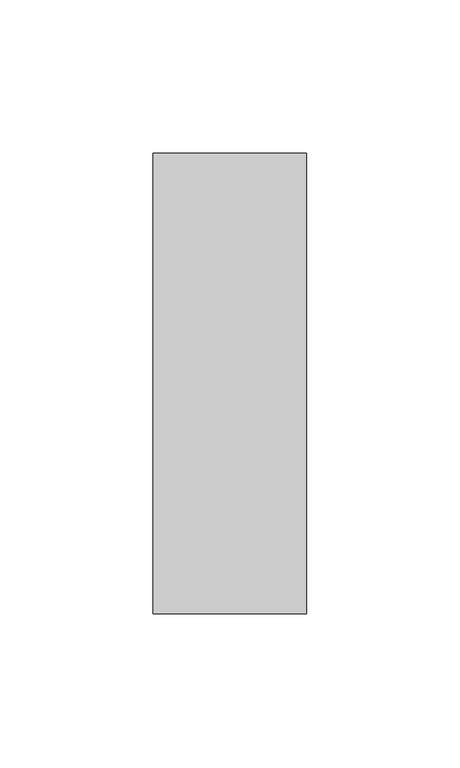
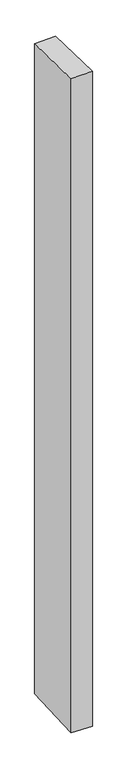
"""IFC4 building model written with IfcOpenShell, lengths in millimetres: member geometry, Прямоугольный импост : 50 x 150 мм."""

from ifc_helpers import new_model, si_unit, origin, place, context, project, spatial, faceted_brep, source, transform, mapped, element, save


def member_f3e51769(model_context):
    return source(origin(), model_context, "Body", "Brep", [
        faceted_brep([(-25.0, 75.0, -2.5786425), (25.0, 75.0, -1.3619852), (25.0, 75.0, -1632.673093), (-25.0, 75.0, -1631.4405841), (-25.0, -75.0, 1.3619852), (-25.0, -75.0, -1638.2483927), (25.0, -75.0, 2.5786425), (25.0, -75.0, -1639.4809017)], [[[0, 1, 2, 3]], [[4, 0, 3, 5]], [[6, 4, 5, 7]], [[1, 6, 7, 2]], [[1, 0, 4, 6]], [[2, 7, 5, 3]]]),
    ])


if __name__ == "__main__":
    model = new_model("IFC4")
    model_context = context("Model", 3, world=origin())
    ifc_project = project(units=[si_unit("LENGTHUNIT", "METRE", prefix="MILLI")], contexts=[model_context])
    site = spatial("IfcSite", under=ifc_project)
    building = spatial("IfcBuilding", under=site)
    placement = place(None, origin())
    member_shape = member_f3e51769(model_context)
    element("IfcMember", 1, ObjectType="Прямоугольный импост : 50 x 150 мм", at=placement, inside=building, context=model_context, shape_type="MappedRepresentation", body=[
        mapped(member_shape, transform((0.0, 0.0, 0.0), x_axis=(1.0, 0.0, 0.0), y_axis=(0.0, 1.0, 0.0), z_axis=(0.0, 0.0, 1.0))),
    ])
    save(model, "model.ifc")
